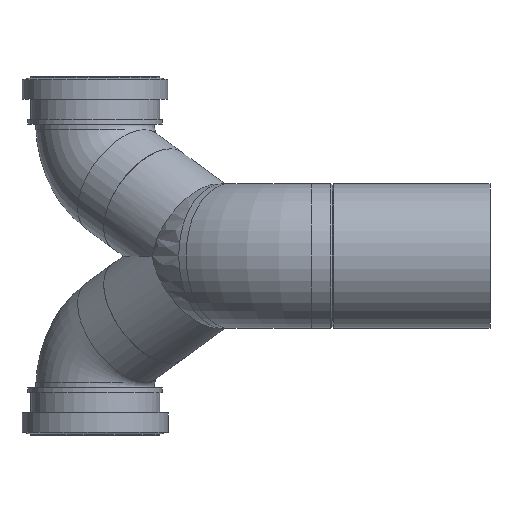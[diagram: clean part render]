
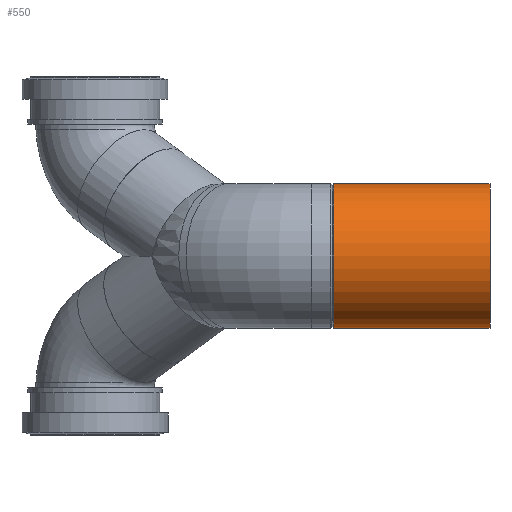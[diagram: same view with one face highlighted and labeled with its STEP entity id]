
A CAD part, left-side view. The second image highlights one B-rep face of the part: STEP entity #550.
In plain terms, the highlighted cylindrical face has radius 55 mm (diameter 110 mm), a full revolution.
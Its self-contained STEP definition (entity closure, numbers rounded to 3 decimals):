
#52=CYLINDRICAL_SURFACE($,#611,55.);
#76=FACE_OUTER_BOUND($,#176,.T.);
#115=FACE_BOUND($,#177,.T.);
#176=EDGE_LOOP($,(#401));
#177=EDGE_LOOP($,(#402));
#253=CIRCLE($,#601,55.);
#258=CIRCLE($,#612,55.);
#298=VERTEX_POINT($,#913);
#303=VERTEX_POINT($,#929);
#343=EDGE_CURVE($,#298,#298,#253,.T.);
#348=EDGE_CURVE($,#303,#303,#258,.T.);
#401=ORIENTED_EDGE($,*,*,#343,.T.);
#402=ORIENTED_EDGE($,*,*,#348,.F.);
#550=ADVANCED_FACE($,(#76,#115),#52,.T.);
#601=AXIS2_PLACEMENT_3D($,#914,#710,#711);
#611=AXIS2_PLACEMENT_3D($,#928,#730,#731);
#612=AXIS2_PLACEMENT_3D($,#930,#732,#733);
#710=DIRECTION('center_axis',(0.,-1.,0.));
#711=DIRECTION('ref_axis',(1.,0.,0.));
#730=DIRECTION('center_axis',(0.,1.,0.));
#731=DIRECTION('ref_axis',(1.,0.,0.));
#732=DIRECTION('center_axis',(0.,-1.,0.));
#733=DIRECTION('ref_axis',(1.,0.,0.));
#913=CARTESIAN_POINT('',(-55.,118.9,0.));
#914=CARTESIAN_POINT('Origin',(0.,118.9,0.));
#928=CARTESIAN_POINT('Origin',(0.,0.,0.));
#929=CARTESIAN_POINT('',(-55.,0.,0.));
#930=CARTESIAN_POINT('Origin',(0.,0.,0.));
